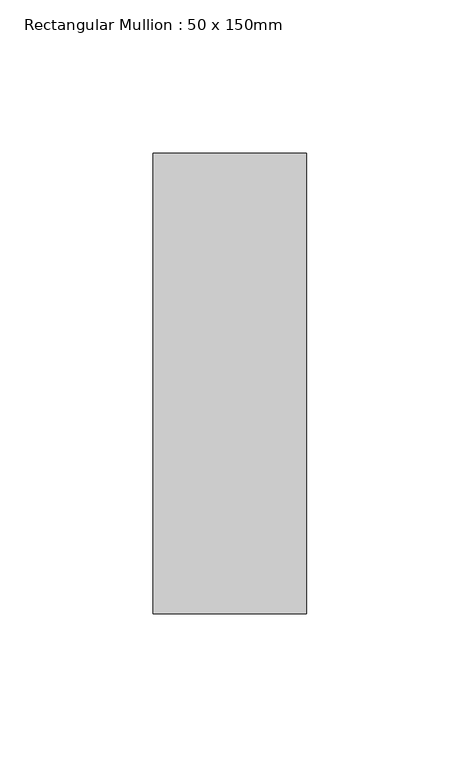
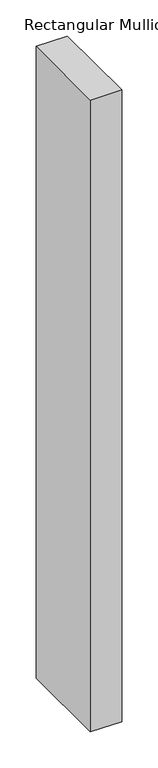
"""IFC4 building model written with IfcOpenShell, lengths in millimetres: member geometry, Rectangular Mullion : 50 x 150mm."""

from ifc_helpers import new_model, si_unit, frame, origin, place, context, project, spatial, polyline, outline, extrude, source, transform, mapped, element, save


def rectangular_mullion_50_x_150mm_6248b032(model_context):
    return source(origin(), model_context, "Body", "SweptSolid", [
        extrude(outline(polyline([(0.0, 75.0), (0.0, -75.0), (-50.0, -75.0), (-50.0, 75.0), (0.0, 75.0)])), frame((0.0, 0.0, -1067.5), z_axis=(0.0, 0.0, 1.0), x_axis=(1.0, 0.0, 0.0)), (0.0, 0.0, 1.0), 1067.5),
    ])


if __name__ == "__main__":
    model = new_model("IFC4")
    model_context = context("Model", 3, world=origin())
    ifc_project = project(units=[si_unit("LENGTHUNIT", "METRE", prefix="MILLI")], contexts=[model_context])
    site = spatial("IfcSite", under=ifc_project)
    building = spatial("IfcBuilding", under=site)
    placement = place(None, origin())
    rectangular_mullion_50_x_150mm_shape = rectangular_mullion_50_x_150mm_6248b032(model_context)
    element("IfcMember", 1, ObjectType="Rectangular Mullion : 50 x 150mm", at=placement, inside=building, context=model_context, shape_type="MappedRepresentation", body=[
        mapped(rectangular_mullion_50_x_150mm_shape, transform((0.0, 0.0, 0.0), x_axis=(1.0, 0.0, 0.0), y_axis=(0.0, 1.0, 0.0), z_axis=(0.0, 0.0, 1.0))),
    ])
    save(model, "model.ifc")
